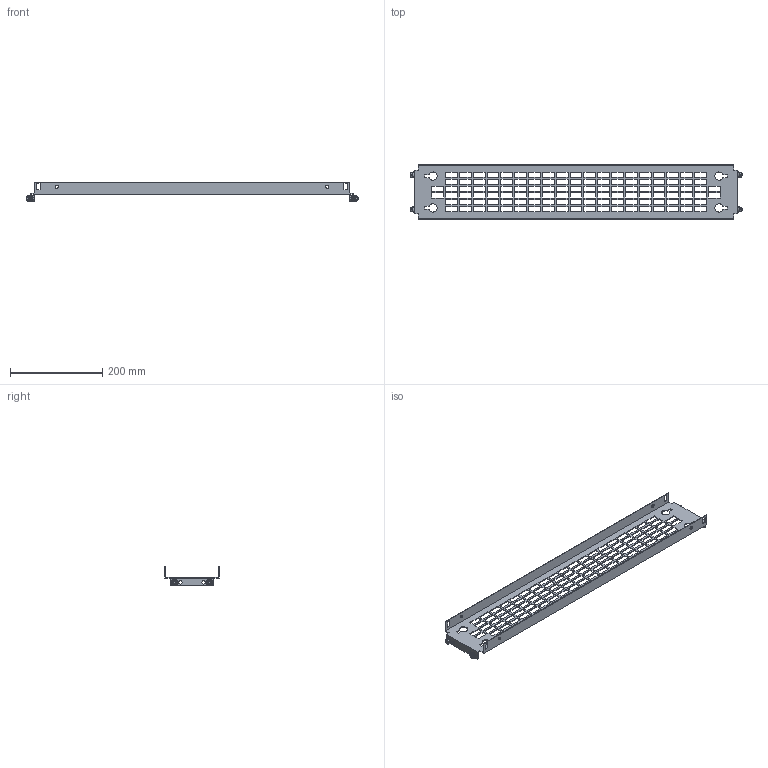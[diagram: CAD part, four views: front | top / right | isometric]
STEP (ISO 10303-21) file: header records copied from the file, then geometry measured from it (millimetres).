
FILE_DESCRIPTION(('Open CASCADE Model'),'2;1');
FILE_NAME('Open CASCADE Shape Model','2025-02-19T16:48:08',('Author'),( 'Open CASCADE'),'Open CASCADE STEP processor 7.8','Open CASCADE 7.8' ,'Unknown');
FILE_SCHEMA(('AUTOMOTIVE_DESIGN { 1 0 10303 214 1 1 1 1 }'));
Length unit declared in the file: millimetre
Products named in the file (4): Compound1; Solid1; Solid2; Solid3
Assembly tree (9 placements, depth 2):
  Compound1
    Solid1
    Solid2  x4
    Solid3  x4
Bounding box: 720 x 119 x 43 mm (x, y, z)
Volume: 172158.2 mm3; surface area: 193865.8 mm2
Topology: 9 solids, 9 shells, 762 faces, 2114 edges, 1374 vertices
Faces by surface type: plane 606, cone 68, bspline 48, cylinder 28, torus 12
Full cylindrical faces by diameter (mm): 5 x4, 6 x8, 7 x12
Entity records: 20752 total; most frequent: CARTESIAN_POINT 4159, ORIENTED_EDGE 3550, DIRECTION 2968, EDGE_CURVE 1775, LINE 1624, VECTOR 1624, VERTEX_POINT 1176, FACE_BOUND 885
